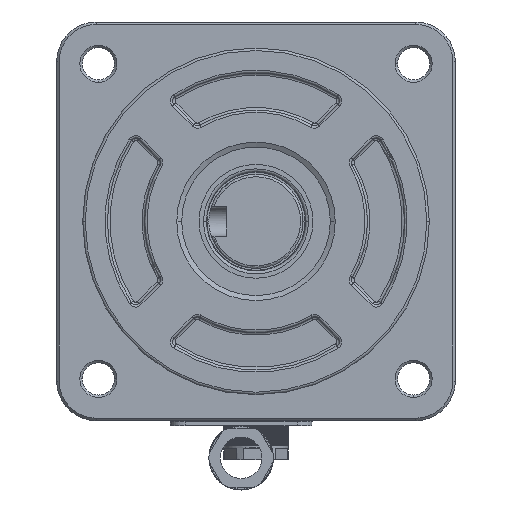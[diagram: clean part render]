
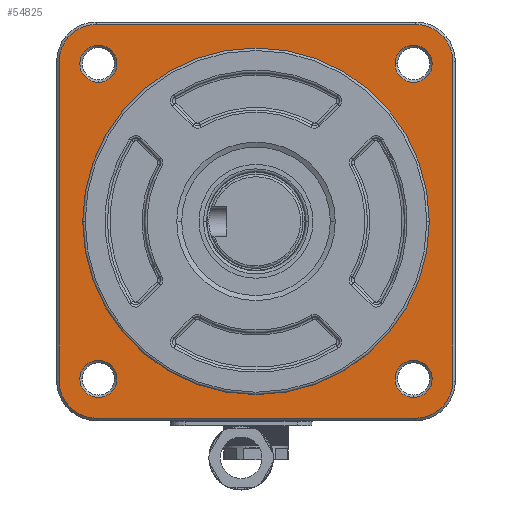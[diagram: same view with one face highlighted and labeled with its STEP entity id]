
A CAD part, front view. The second image highlights one B-rep face of the part: STEP entity #54825.
In plain terms, the highlighted planar face has unit normal (0, -1, 0).
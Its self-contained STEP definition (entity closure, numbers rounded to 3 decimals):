
#393=CARTESIAN_POINT('',(-32.25,-18.5,32.25));
#394=DIRECTION('',(0.,-1.,0.));
#395=DIRECTION('',(0.,0.,1.));
#396=AXIS2_PLACEMENT_3D('',#393,#394,#395);
#398=CARTESIAN_POINT('',(32.25,-18.5,32.25));
#399=DIRECTION('',(0.,-1.,0.));
#400=DIRECTION('',(1.,0.,0.));
#401=AXIS2_PLACEMENT_3D('',#398,#399,#400);
#403=CARTESIAN_POINT('',(32.25,-18.5,-32.25));
#404=DIRECTION('',(0.,-1.,0.));
#405=DIRECTION('',(0.,0.,-1.));
#406=AXIS2_PLACEMENT_3D('',#403,#404,#405);
#408=CARTESIAN_POINT('',(-32.25,-18.5,-32.25));
#409=DIRECTION('',(0.,-1.,0.));
#410=DIRECTION('',(-1.,0.,0.));
#411=AXIS2_PLACEMENT_3D('',#408,#409,#410);
#413=CARTESIAN_POINT('',(0.,-18.5,0.));
#414=DIRECTION('',(0.,1.,0.));
#415=DIRECTION('',(1.,0.,0.));
#416=AXIS2_PLACEMENT_3D('',#413,#414,#415);
#418=CARTESIAN_POINT('',(0.,-18.5,0.));
#419=DIRECTION('',(0.,1.,0.));
#420=DIRECTION('',(-1.,0.,0.));
#421=AXIS2_PLACEMENT_3D('',#418,#419,#420);
#423=CARTESIAN_POINT('',(31.82,-18.5,-31.82));
#424=DIRECTION('',(0.,1.,0.));
#425=DIRECTION('',(0.,0.,-1.));
#426=AXIS2_PLACEMENT_3D('',#423,#424,#425);
#428=CARTESIAN_POINT('',(31.82,-18.5,-31.82));
#429=DIRECTION('',(0.,1.,0.));
#430=DIRECTION('',(0.,0.,1.));
#431=AXIS2_PLACEMENT_3D('',#428,#429,#430);
#433=CARTESIAN_POINT('',(-31.82,-18.5,31.82));
#434=DIRECTION('',(0.,1.,0.));
#435=DIRECTION('',(0.,0.,-1.));
#436=AXIS2_PLACEMENT_3D('',#433,#434,#435);
#438=CARTESIAN_POINT('',(-31.82,-18.5,31.82));
#439=DIRECTION('',(0.,1.,0.));
#440=DIRECTION('',(0.,0.,1.));
#441=AXIS2_PLACEMENT_3D('',#438,#439,#440);
#443=DIRECTION('',(0.,0.,1.));
#444=VECTOR('',#443,64.5);
#445=CARTESIAN_POINT('',(-39.75,-18.5,
-32.25));
#446=LINE('',#445,#444);
#460=DIRECTION('',(-1.,0.,0.));
#461=VECTOR('',#460,64.5);
#462=CARTESIAN_POINT('',(32.25,-18.5,-39.75));
#463=LINE('',#462,#461);
#477=DIRECTION('',(0.,0.,-1.));
#478=VECTOR('',#477,64.5);
#479=CARTESIAN_POINT('',(39.75,-18.5,32.25));
#480=LINE('',#479,#478);
#498=DIRECTION('',(1.,0.,0.));
#499=VECTOR('',#498,64.5);
#500=CARTESIAN_POINT('',(-32.25,-18.5,39.75));
#501=LINE('',#500,#499);
#9547=CARTESIAN_POINT('',(31.82,-18.5,31.82));
#9548=DIRECTION('',(0.,1.,0.));
#9549=DIRECTION('',(-1.,0.,0.));
#9550=AXIS2_PLACEMENT_3D('',#9547,#9548,#9549);
#9557=CARTESIAN_POINT('',(31.82,-18.5,31.82));
#9558=DIRECTION('',(0.,1.,0.));
#9559=DIRECTION('',(1.,0.,0.));
#9560=AXIS2_PLACEMENT_3D('',#9557,#9558,#9559);
#42391=CARTESIAN_POINT('',(-31.82,-18.5,-31.82));
#42392=DIRECTION('',(0.,1.,0.));
#42393=DIRECTION('',(1.,0.,0.));
#42394=AXIS2_PLACEMENT_3D('',#42391,#42392,#42393);
#42396=CARTESIAN_POINT('',(-31.82,-18.5,-31.82));
#42397=DIRECTION('',(0.,1.,0.));
#42398=DIRECTION('',(-1.,0.,0.));
#42399=AXIS2_PLACEMENT_3D('',#42396,#42397,#42398);
#50339=CARTESIAN_POINT('',(39.75,-18.5,
32.25));
#50340=CARTESIAN_POINT('',(32.25,-18.5,
39.75));
#50341=VERTEX_POINT('',#50339);
#50342=VERTEX_POINT('',#50340);
#50343=CARTESIAN_POINT('',(-39.75,-18.5,
-32.25));
#50344=CARTESIAN_POINT('',(-39.75,-18.5,
32.25));
#50345=VERTEX_POINT('',#50343);
#50346=VERTEX_POINT('',#50344);
#50347=CARTESIAN_POINT('',(-32.25,-18.5,
39.75));
#50348=VERTEX_POINT('',#50347);
#50349=CARTESIAN_POINT('',(39.75,-18.5,
-32.25));
#50350=VERTEX_POINT('',#50349);
#50351=CARTESIAN_POINT('',(32.25,-18.5,
-39.75));
#50352=VERTEX_POINT('',#50351);
#50353=CARTESIAN_POINT('',(-32.25,-18.5,
-39.75));
#50354=VERTEX_POINT('',#50353);
#50355=CARTESIAN_POINT('',(35.,-18.5,0.));
#50356=CARTESIAN_POINT('',(-35.,-18.5,0.));
#50357=VERTEX_POINT('',#50355);
#50358=VERTEX_POINT('',#50356);
#50359=CARTESIAN_POINT('',(31.82,-18.5,
-35.57));
#50360=CARTESIAN_POINT('',(31.82,-18.5,
-28.07));
#50361=VERTEX_POINT('',#50359);
#50362=VERTEX_POINT('',#50360);
#50363=CARTESIAN_POINT('',(-31.82,-18.5,
28.07));
#50364=CARTESIAN_POINT('',(-31.82,-18.5,
35.57));
#50365=VERTEX_POINT('',#50363);
#50366=VERTEX_POINT('',#50364);
#50555=CARTESIAN_POINT('',(-28.07,-18.5,
-31.82));
#50556=VERTEX_POINT('',#50555);
#50557=CARTESIAN_POINT('',(-35.57,-18.5,
-31.82));
#50558=VERTEX_POINT('',#50557);
#51483=CARTESIAN_POINT('',(28.07,-18.5,
31.82));
#51485=VERTEX_POINT('',#51483);
#51486=CARTESIAN_POINT('',(35.57,-18.5,
31.82));
#51488=VERTEX_POINT('',#51486);
#54774=CARTESIAN_POINT('',(0.,-18.5,0.));
#54775=DIRECTION('',(0.,1.,0.));
#54776=DIRECTION('',(-1.,0.,0.));
#54777=AXIS2_PLACEMENT_3D('',#54774,#54775,#54776);
#54778=PLANE('',#54777);
#54780=ORIENTED_EDGE('',*,*,#54779,.T.);
#54782=ORIENTED_EDGE('',*,*,#54781,.F.);
#54784=ORIENTED_EDGE('',*,*,#54783,.T.);
#54786=ORIENTED_EDGE('',*,*,#54785,.F.);
#54788=ORIENTED_EDGE('',*,*,#54787,.T.);
#54790=ORIENTED_EDGE('',*,*,#54789,.F.);
#54792=ORIENTED_EDGE('',*,*,#54791,.T.);
#54794=ORIENTED_EDGE('',*,*,#54793,.F.);
#54795=EDGE_LOOP('',(#54780,#54782,#54784,#54786,#54788,#54790,#54792,#54794));
#54796=FACE_OUTER_BOUND('',#54795,.F.);
#54797=ORIENTED_EDGE('',*,*,#54754,.F.);
#54798=ORIENTED_EDGE('',*,*,#54768,.F.);
#54799=EDGE_LOOP('',(#54797,#54798));
#54800=FACE_BOUND('',#54799,.F.);
#54802=ORIENTED_EDGE('',*,*,#54801,.F.);
#54804=ORIENTED_EDGE('',*,*,#54803,.F.);
#54805=EDGE_LOOP('',(#54802,#54804));
#54806=FACE_BOUND('',#54805,.F.);
#54808=ORIENTED_EDGE('',*,*,#54807,.F.);
#54810=ORIENTED_EDGE('',*,*,#54809,.F.);
#54811=EDGE_LOOP('',(#54808,#54810));
#54812=FACE_BOUND('',#54811,.F.);
#54814=ORIENTED_EDGE('',*,*,#54813,.F.);
#54816=ORIENTED_EDGE('',*,*,#54815,.F.);
#54817=EDGE_LOOP('',(#54814,#54816));
#54818=FACE_BOUND('',#54817,.F.);
#54820=ORIENTED_EDGE('',*,*,#54819,.F.);
#54822=ORIENTED_EDGE('',*,*,#54821,.F.);
#54823=EDGE_LOOP('',(#54820,#54822));
#54824=FACE_BOUND('',#54823,.F.);
#397=CIRCLE('',#396,7.5);
#402=CIRCLE('',#401,7.5);
#407=CIRCLE('',#406,7.5);
#412=CIRCLE('',#411,7.5);
#417=CIRCLE('',#416,35.);
#422=CIRCLE('',#421,35.);
#427=CIRCLE('',#426,3.75);
#432=CIRCLE('',#431,3.75);
#437=CIRCLE('',#436,3.75);
#442=CIRCLE('',#441,3.75);
#9551=CIRCLE('',#9550,3.75);
#9561=CIRCLE('',#9560,3.75);
#42395=CIRCLE('',#42394,3.75);
#42400=CIRCLE('',#42399,3.75);
#54754=EDGE_CURVE('',#50357,#50358,#417,.T.);
#54768=EDGE_CURVE('',#50358,#50357,#422,.T.);
#54779=EDGE_CURVE('',#50345,#50346,#446,.T.);
#54781=EDGE_CURVE('',#50348,#50346,#397,.T.);
#54783=EDGE_CURVE('',#50348,#50342,#501,.T.);
#54785=EDGE_CURVE('',#50341,#50342,#402,.T.);
#54787=EDGE_CURVE('',#50341,#50350,#480,.T.);
#54789=EDGE_CURVE('',#50352,#50350,#407,.T.);
#54791=EDGE_CURVE('',#50352,#50354,#463,.T.);
#54793=EDGE_CURVE('',#50345,#50354,#412,.T.);
#54801=EDGE_CURVE('',#50361,#50362,#427,.T.);
#54803=EDGE_CURVE('',#50362,#50361,#432,.T.);
#54807=EDGE_CURVE('',#51485,#51488,#9551,.T.);
#54809=EDGE_CURVE('',#51488,#51485,#9561,.T.);
#54813=EDGE_CURVE('',#50365,#50366,#437,.T.);
#54815=EDGE_CURVE('',#50366,#50365,#442,.T.);
#54819=EDGE_CURVE('',#50556,#50558,#42395,.T.);
#54821=EDGE_CURVE('',#50558,#50556,#42400,.T.);
#54825=ADVANCED_FACE('',(#54796,#54800,#54806,#54812,#54818,#54824),#54778,.F.);
